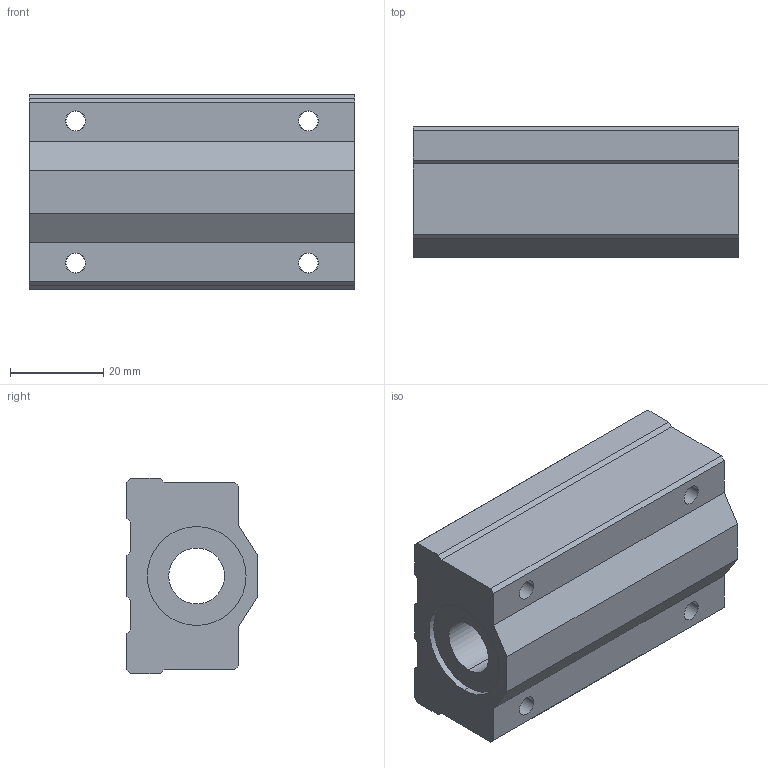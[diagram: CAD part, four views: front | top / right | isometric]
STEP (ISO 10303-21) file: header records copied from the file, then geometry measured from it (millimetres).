
FILE_DESCRIPTION(('FreeCAD Model'),'2;1');
FILE_NAME('Open CASCADE Shape Model','2021-05-03T09:10:06',('Author'),( ''),'Open CASCADE STEP processor 7.5','FreeCAD','Unknown');
FILE_SCHEMA(('AUTOMOTIVE_DESIGN { 1 0 10303 214 1 1 1 1 }'));
Length unit declared in the file: millimetre
Products named in the file (1): ball_bearing_sc12luu
Bounding box: 70 x 28 x 42 mm (x, y, z)
Volume: 61506.6 mm3; surface area: 23345.6 mm2
Topology: 1 solids, 2 shells, 102 faces, 245 edges, 161 vertices
Faces by surface type: cylinder 44, plane 42, cone 8, torus 8
Entity records: 6869 total; most frequent: CARTESIAN_POINT 1323, DIRECTION 1008, LINE 528, VECTOR 528, ORIENTED_EDGE 490, PCURVE 490, DEFINITIONAL_REPRESENTATION 490, EDGE_CURVE 245
